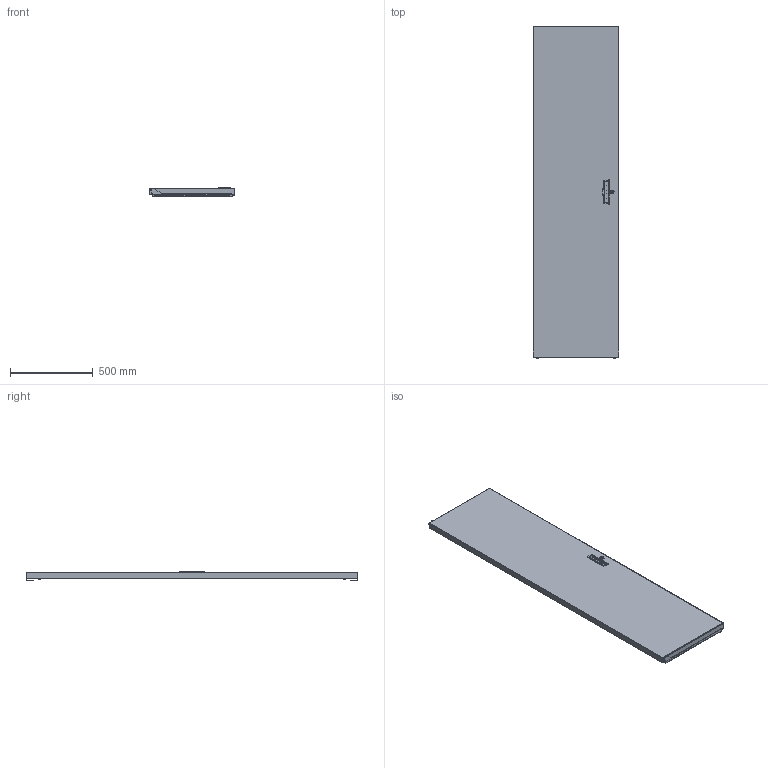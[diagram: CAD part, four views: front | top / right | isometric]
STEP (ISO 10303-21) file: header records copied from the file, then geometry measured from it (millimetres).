
FILE_DESCRIPTION((''),'2;1');
FILE_NAME('DO-5-43__ASM','2023-12-28T',('mrodri2d'),('Middle Atlantic Products'),'CREO PARAMETRIC BY PTC INC, 2018360','CREO PARAMETRIC BY PTC INC, 2018360','');
FILE_SCHEMA(('CONFIG_CONTROL_DESIGN'));
Length unit declared in the file: inch
Products named in the file (13): B543D; 500-00769; 500-00069; SC-1_125; LOCKCLIP; 80-050; B5DB_1; 85-009-1; P5DB1_ASM; B5DB_2; P5DB2_ASM; 91-036; DO-5-43__ASM
Assembly tree (14 placements, depth 3):
  DO-5-43__ASM
    B543D
    500-00769
    500-00069
    SC-1_125
    LOCKCLIP
    80-050  x2
    P5DB1_ASM
      B5DB_1
      85-009-1
    P5DB2_ASM
      B5DB_2
      85-009-1
    91-036
Bounding box: 517.52 x 2002.64 x 55.73 mm (x, y, z)
Volume: 2114737.1 mm3; surface area: 2681327.7 mm2
Topology: 11 solids, 22 shells, 692 faces, 1753 edges, 1088 vertices
Faces by surface type: plane 321, cylinder 254, bspline 45, torus 38, sphere 19, cone 15
Entity records: 25454 total; most frequent: CARTESIAN_POINT 9537, ORIENTED_EDGE 3295, DIRECTION 3126, EDGE_CURVE 1677, AXIS2_PLACEMENT_3D 1080, VERTEX_POINT 1053, VECTOR 966, LINE 966
